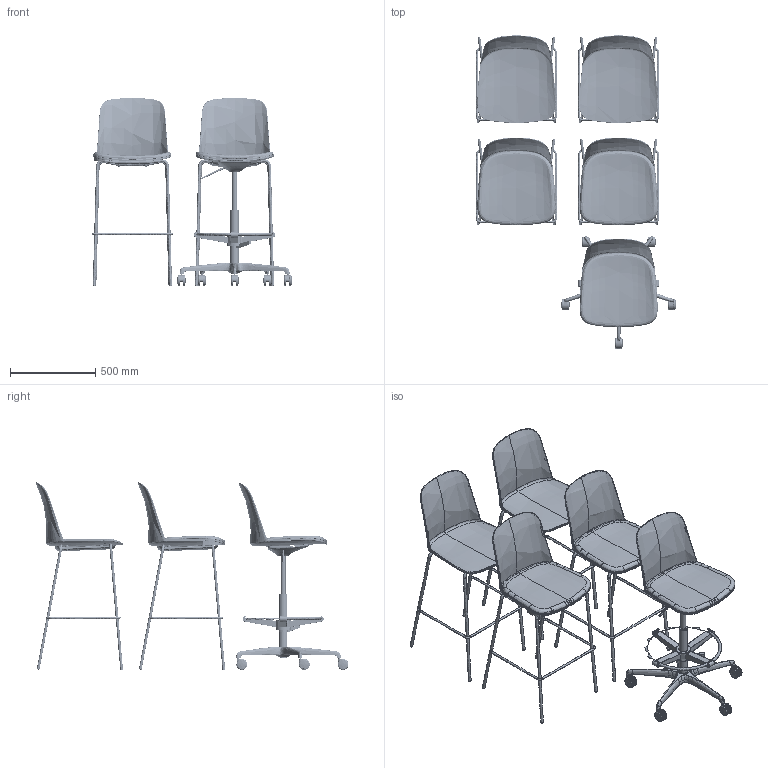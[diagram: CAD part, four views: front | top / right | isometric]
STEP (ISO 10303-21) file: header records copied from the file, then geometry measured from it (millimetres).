
FILE_DESCRIPTION(/* description */ (''),/* implementation_level */ '2;1');
FILE_NAME(/* name */ 'UNIXSG~2',/* time_stamp */ '2025-10-24T17:28:08+02:00',/* author */ (''),/* organization */ (''),/* preprocessor_version */ 'ST-DEVELOPER v16.5',/* originating_system */ '',/* authorisation */ '');
FILE_SCHEMA (('AUTOMOTIVE_DESIGN'));
Products named in the file (13): Document; ASM0001_ASM; JOGA_0001_ASM; ASM0009_ASM_1_ASM; _0001_ASM_1_ASM; JOGA_X2_56DB8F6E65E06276624B9_3_ASM; JOGA_X2_56DB8F6E4E0D5E2662766_5_ASM; 00000000_ASM_107_ASM_2__X2_4EFB_ASM; 0001_214_2__X2_4EFB4F55_X0__1; 0013_112_2__X2_4EFB4F55_X0__1; 001_39_ASM_2__X2_4EFB4F55_X0__A_ASM; 001_39_2_2__X2_4EFB4F55_X0__1; 001_39_1_2__X2_4EFB4F55_X0__1
Assembly tree (12 placements, depth 10):
  Document
    ASM0001_ASM
      JOGA_0001_ASM
        ASM0009_ASM_1_ASM
          _0001_ASM_1_ASM
            JOGA_X2_56DB8F6E65E06276624B9_3_ASM
              JOGA_X2_56DB8F6E4E0D5E2662766_5_ASM
                00000000_ASM_107_ASM_2__X2_4EFB_ASM
                  0001_214_2__X2_4EFB4F55_X0__1
                  0013_112_2__X2_4EFB4F55_X0__1
                  001_39_ASM_2__X2_4EFB4F55_X0__A_ASM
Bounding box: 1173.51 x 1837.64 x 1102.86 mm (x, y, z)
Volume: 18498280 mm3; surface area: 7110151.2 mm2
Topology: 70 solids, 87 shells, 4417 faces, 12474 edges, 8132 vertices
Faces by surface type: bspline 3612, plane 805
Entity records: 430458 total; most frequent: CARTESIAN_POINT 360185, ORIENTED_EDGE 24621, EDGE_CURVE 12416, VERTEX_POINT 8127, B_SPLINE_CURVE_WITH_KNOTS 7606, EDGE_LOOP 4615, ADVANCED_FACE 4417, FACE_OUTER_BOUND 4417
